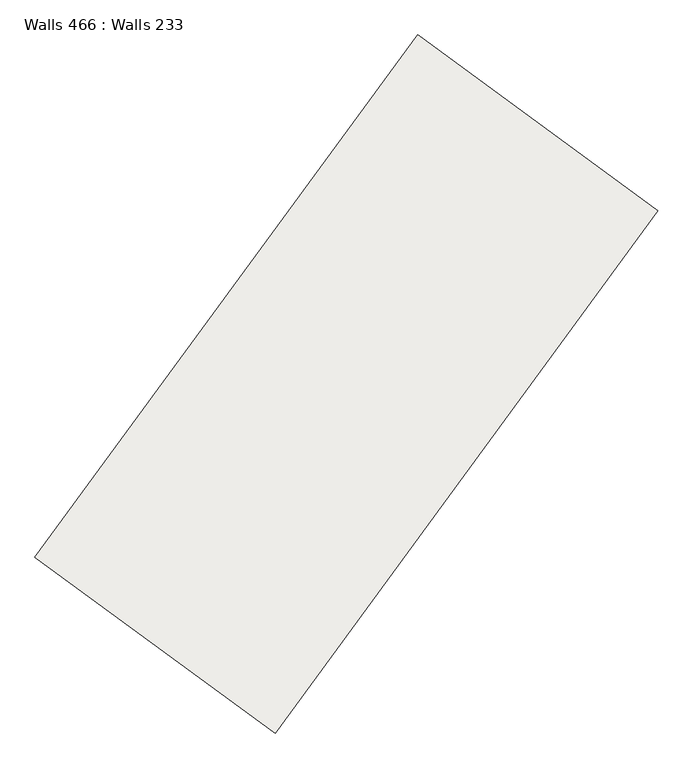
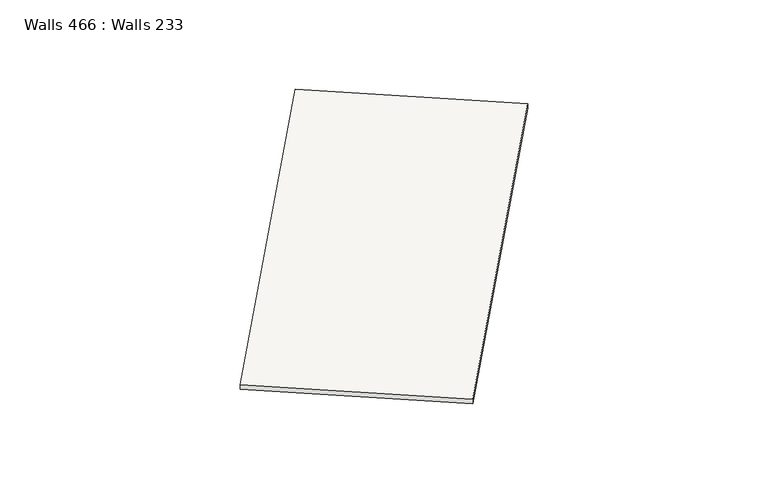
"""IFC4 building model written with IfcOpenShell, lengths in millimetres: slab geometry, Walls 466 : Walls 233."""

from ifc_helpers import new_model, si_unit, frame, origin, place, context, project, spatial, polyline, outline, extrude, source, transform, mapped, element, save


def walls_466_walls_233_07416ca5(model_context):
    return source(origin(), model_context, "Body", "SweptSolid", [
        extrude(outline(polyline([(-50.0, 0.0), (50.0, 0.0), (-62.2, -8700.0000008), (-162.2, -8700.0000008), (-50.0, 0.0)])), frame((450117.6872244, 332513.0962852, 645985.8), z_axis=(-0.8067016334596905, 0.5909589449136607, 0.0), x_axis=(0.0, 0.0, 1.0)), (0.0, 0.0, 1.0), 4000.0),
    ])


if __name__ == "__main__":
    model = new_model("IFC4")
    model_context = context("Model", 3, world=origin())
    ifc_project = project(units=[si_unit("LENGTHUNIT", "METRE", prefix="MILLI")], contexts=[model_context])
    site = spatial("IfcSite", under=ifc_project)
    building = spatial("IfcBuilding", under=site)
    placement = place(None, origin())
    walls_466_walls_233_shape = walls_466_walls_233_07416ca5(model_context)
    element("IfcSlab", 1, ObjectType="Walls 466 : Walls 233", at=placement, inside=building, context=model_context, shape_type="MappedRepresentation", body=[
        mapped(walls_466_walls_233_shape, transform((0.0, 0.0, 0.0), x_axis=(1.0, 0.0, 0.0), y_axis=(0.0, 1.0, 0.0), z_axis=(0.0, 0.0, 1.0))),
    ])
    save(model, "model.ifc")
